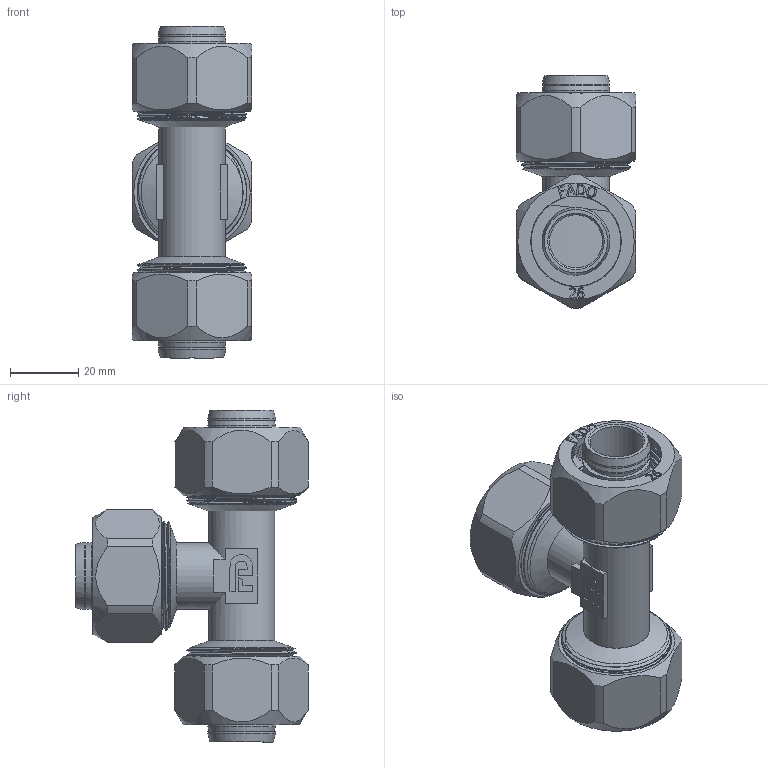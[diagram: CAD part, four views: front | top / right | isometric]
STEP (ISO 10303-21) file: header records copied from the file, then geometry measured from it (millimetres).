
FILE_DESCRIPTION(/* description */ (''),/* implementation_level */ '2;1');
FILE_NAME(/* name */ 'C:\Users\Doom\Desktop\Фадотех\Обжим\RFT08 26 30.03.2020\RFT08 26 30.03.2020_2D.stp',/* time_stamp */ '2022-06-01T12:09:10+03:00',/* author */ ('Doom'),/* organization */ (''),/* preprocessor_version */ 'ST-DEVELOPER v18',/* originating_system */ 'Autodesk Inventor 2020',/* authorisation */ '');
FILE_SCHEMA (('AUTOMOTIVE_DESIGN { 1 0 10303 214 3 1 1 }'));
Length unit declared in the file: millimetre
Products named in the file (5): RFT08 26 30.03.2020_2D; RFT08 26 30.03.2020; FADO MC Socket-26 15.02.2020; Olive 26 15.02.2020; FADO MC Nut-26 15.02.2020
Assembly tree (10 placements, depth 2):
  RFT08 26 30.03.2020_2D
    RFT08 26 30.03.2020
    FADO MC Socket-26 15.02.2020  x3
    Olive 26 15.02.2020  x3
    FADO MC Nut-26 15.02.2020  x3
Bounding box: 35 x 68 x 97 mm (x, y, z)
Volume: 50707.9 mm3; surface area: 68308.3 mm2
Topology: 16 solids, 16 shells, 1544 faces, 4284 edges, 2892 vertices
Faces by surface type: bspline 806, plane 443, cylinder 233, cone 53, torus 9
Full cylindrical faces by diameter (mm): 15.5 x3, 16.3 x2, 17.6 x6, 19.3 x3, 19.8 x15, 21 x3, 24 x6, 24.5 x3, 26.5 x3, 29.776 x4, 30 x3, 30.517 x35, 30.6 x3, 32 x27
Entity records: 42778 total; most frequent: CARTESIAN_POINT 28731, ORIENTED_EDGE 3392, DIRECTION 2002, EDGE_CURVE 1696, VERTEX_POINT 1146, LINE 684, VECTOR 684, B_SPLINE_CURVE_WITH_KNOTS 678
